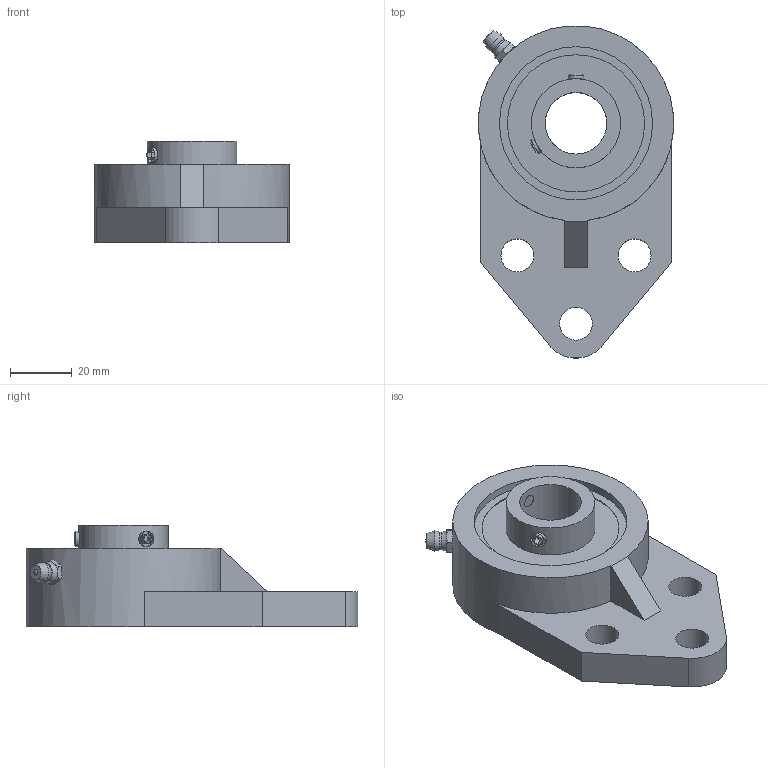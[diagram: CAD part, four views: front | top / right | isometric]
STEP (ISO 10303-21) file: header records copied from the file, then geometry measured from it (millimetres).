
FILE_DESCRIPTION(/* description */ (''),/* implementation_level */ '2;1');
FILE_NAME(/* name */ 'C:\Users\UGijyutu_200702\Desktop\77.プラスチックハウジング\MBFBL200V\MBFBL200V\MBFBL204V.stp',/* time_stamp */ '2023-05-08T16:13:01+09:00',/* author */ ('UGijyutu_200702'),/* organization */ (''),/* preprocessor_version */ 'ST-DEVELOPER v18',/* originating_system */ 'Autodesk Inventor 2020',/* authorisation */ '');
FILE_SCHEMA (('AUTOMOTIVE_DESIGN { 1 0 10303 214 3 1 1 }'));
Length unit declared in the file: millimetre
Products named in the file (4): MBFBL204V; FBL204; MB4 V; 1/4-28UNF-2A
Assembly tree (3 placements, depth 2):
  MBFBL204V
    FBL204
    MB4 V
    1/4-28UNF-2A
Bounding box: 63.43 x 107.85 x 33.1 mm (x, y, z)
Volume: 81865.7 mm3; surface area: 26235.5 mm2
Topology: 3 solids, 3 shells, 84 faces, 209 edges, 143 vertices
Faces by surface type: plane 44, cylinder 19, cone 15, sphere 4, torus 2
Full cylindrical faces by diameter (mm): 3.2 x1, 4.978 x1, 5 x2, 6.35 x1, 10.7 x3, 20 x1, 29 x1, 49.8 x2, 52 x1
Entity records: 2936 total; most frequent: CARTESIAN_POINT 697, DIRECTION 440, ORIENTED_EDGE 416, EDGE_CURVE 208, AXIS2_PLACEMENT_3D 179, VERTEX_POINT 143, EDGE_LOOP 109, CIRCLE 88
